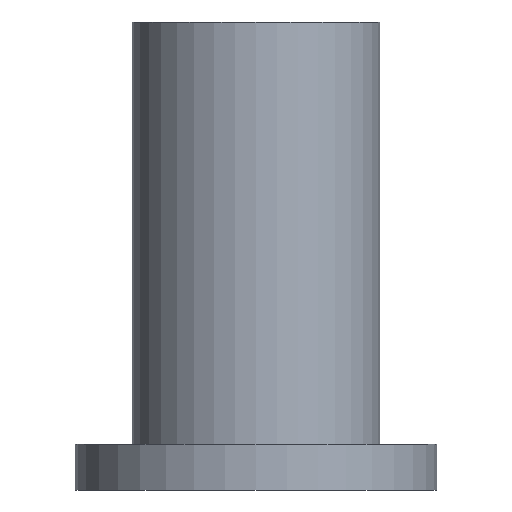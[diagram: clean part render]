
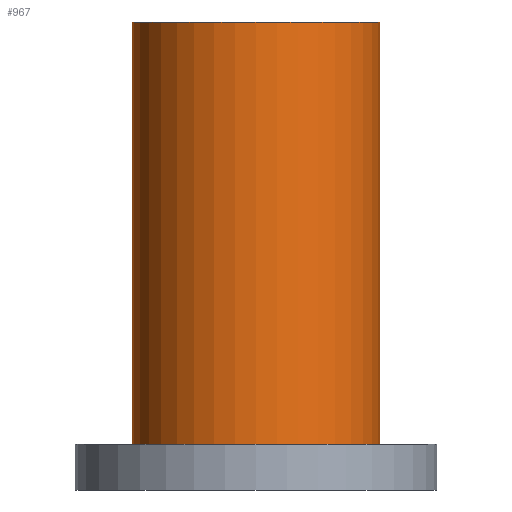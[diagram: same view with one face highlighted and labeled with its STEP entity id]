
A CAD part, front view. The second image highlights one B-rep face of the part: STEP entity #967.
In plain terms, the highlighted cylindrical face has radius 65 mm (diameter 130 mm), a partial arc.
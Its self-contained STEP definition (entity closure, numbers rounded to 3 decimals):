
#129=CARTESIAN_POINT('',(0.,0.,24.));
#130=DIRECTION('',(0.,0.,-1.));
#131=DIRECTION('',(1.,0.,0.));
#132=AXIS2_PLACEMENT_3D('',#129,#130,#131);
#297=DIRECTION('',(0.,0.,-1.));
#298=VECTOR('',#297,222.);
#299=CARTESIAN_POINT('',(-65.,0.,246.));
#300=LINE('',#299,#298);
#301=DIRECTION('',(0.,0.,-1.));
#302=VECTOR('',#301,222.);
#303=CARTESIAN_POINT('',(65.,0.,246.));
#304=LINE('',#303,#302);
#310=CARTESIAN_POINT('',(0.,0.,246.));
#311=DIRECTION('',(0.,0.,1.));
#312=DIRECTION('',(-1.,0.,0.));
#313=AXIS2_PLACEMENT_3D('',#310,#311,#312);
#589=CARTESIAN_POINT('',(65.,0.,246.));
#590=CARTESIAN_POINT('',(65.,0.,24.));
#591=VERTEX_POINT('',#589);
#592=VERTEX_POINT('',#590);
#593=CARTESIAN_POINT('',(-65.,0.,246.));
#594=CARTESIAN_POINT('',(-65.,0.,24.));
#595=VERTEX_POINT('',#593);
#596=VERTEX_POINT('',#594);
#953=CARTESIAN_POINT('',(0.,0.,246.));
#954=DIRECTION('',(0.,0.,-1.));
#955=DIRECTION('',(-1.,0.,0.));
#956=AXIS2_PLACEMENT_3D('',#953,#954,#955);
#957=CYLINDRICAL_SURFACE('',#956,65.);
#958=ORIENTED_EDGE('',*,*,#694,.T.);
#960=ORIENTED_EDGE('',*,*,#959,.F.);
#962=ORIENTED_EDGE('',*,*,#961,.T.);
#964=ORIENTED_EDGE('',*,*,#963,.T.);
#965=EDGE_LOOP('',(#958,#960,#962,#964));
#966=FACE_OUTER_BOUND('',#965,.F.);
#967=ADVANCED_FACE('',(#966),#957,.T.);
#133=CIRCLE('',#132,65.);
#314=CIRCLE('',#313,65.);
#694=EDGE_CURVE('',#592,#596,#133,.T.);
#959=EDGE_CURVE('',#595,#596,#300,.T.);
#961=EDGE_CURVE('',#595,#591,#314,.T.);
#963=EDGE_CURVE('',#591,#592,#304,.T.);
